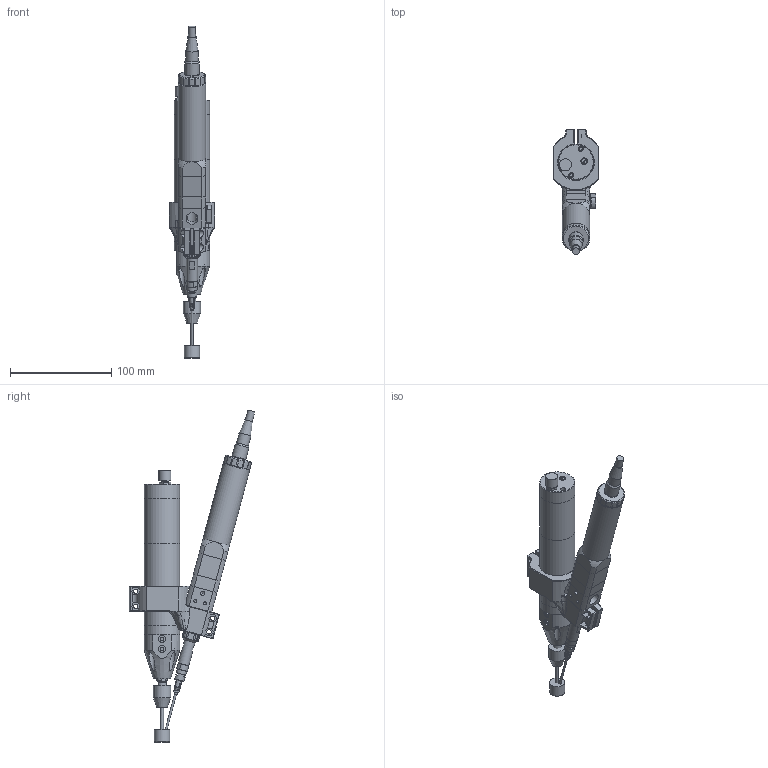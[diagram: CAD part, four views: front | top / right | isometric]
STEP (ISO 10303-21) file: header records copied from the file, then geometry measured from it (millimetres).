
FILE_DESCRIPTION (( 'STEP AP214' ), '1' );
FILE_NAME ('DAVR-1000-PCP015.STEP', '2024-10-11T10:21:37', ( '' ), ( '' ), 'SwSTEP 2.0', 'SolidWorks 2024', '' );
FILE_SCHEMA (( 'AUTOMOTIVE_DESIGN' ));
Length unit declared in the file: millimetre
Products named in the file (1): DAVR-1000-PCP015
Bounding box: 45 x 124.17 x 328.05 mm (x, y, z)
Volume: 316289.3 mm3; surface area: 91592.1 mm2
Topology: 31 solids, 31 shells, 906 faces, 2202 edges, 1415 vertices
Faces by surface type: plane 474, cylinder 211, cone 109, bspline 100, torus 9, sphere 3
Full cylindrical faces by diameter (mm): 1 x3, 1.562 x1, 1.676 x1, 1.841 x2, 1.854 x1, 2 x1, 2.5 x1, 2.87 x1, 3 x8, 3.2 x2, 3.3 x2, 3.8 x1, 4.2 x1, 4.3 x8, 5 x8, 5.5 x4, 5.8 x1, 6 x6, 6.5 x4, 6.655 x1, 6.9 x2, 7 x4, 7.9 x1, 8 x5, 9 x1, 9.5 x1, 10 x2, 10.5 x2, 11 x2, 11.8 x2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
Entity records: 30883 total; most frequent: CARTESIAN_POINT 11332, ORIENTED_EDGE 3890, DIRECTION 3651, EDGE_CURVE 1945, AXIS2_PLACEMENT_3D 1336, VERTEX_POINT 1331, EDGE_LOOP 1162, FACE_OUTER_BOUND 1018
